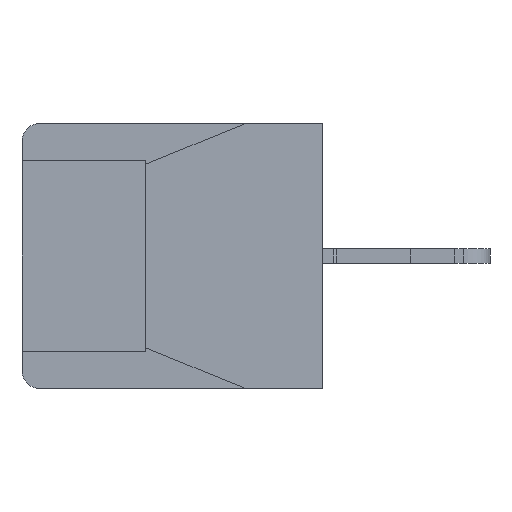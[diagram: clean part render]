
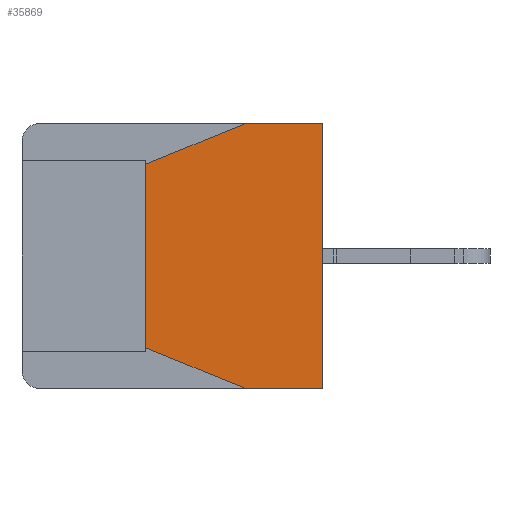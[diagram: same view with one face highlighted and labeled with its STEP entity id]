
A CAD part, left-side view. The second image highlights one B-rep face of the part: STEP entity #35869.
In plain terms, the highlighted planar face has unit normal (-1, 0, 0).
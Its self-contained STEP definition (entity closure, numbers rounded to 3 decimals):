
#2491=DIRECTION('',(0.,-1.,0.));
#2492=VECTOR('',#2491,4.35);
#2493=CARTESIAN_POINT('',(0.,4.35,-15.));
#2494=LINE('',#2493,#2492);
#2581=DIRECTION('',(0.,0.,1.));
#2582=VECTOR('',#2581,15.);
#2583=CARTESIAN_POINT('',(0.,0.,-15.));
#2584=LINE('',#2583,#2582);
#6838=DIRECTION('',(0.,0.926,0.378));
#6839=VECTOR('',#6838,6.102);
#6840=CARTESIAN_POINT('',(0.,4.35,-15.));
#6841=LINE('',#6840,#6839);
#6842=DIRECTION('',(0.,0.,1.));
#6843=VECTOR('',#6842,10.392);
#6844=CARTESIAN_POINT('',(0.,10.,-12.696));
#6845=LINE('',#6844,#6843);
#6846=DIRECTION('',(0.,-0.926,0.378));
#6847=VECTOR('',#6846,6.102);
#6848=CARTESIAN_POINT('',(0.,10.,-2.304));
#6849=LINE('',#6848,#6847);
#6850=DIRECTION('',(0.,-1.,0.));
#6851=VECTOR('',#6850,4.35);
#6852=CARTESIAN_POINT('',(0.,4.35,0.));
#6853=LINE('',#6852,#6851);
#20387=CARTESIAN_POINT('',(0.,0.,0.));
#20388=VERTEX_POINT('',#20387);
#20455=CARTESIAN_POINT('',(0.,10.,-12.696));
#20456=VERTEX_POINT('',#20455);
#20457=CARTESIAN_POINT('',(0.,10.,-2.304));
#20458=VERTEX_POINT('',#20457);
#20503=CARTESIAN_POINT('',(0.,4.35,0.));
#20504=VERTEX_POINT('',#20503);
#20505=CARTESIAN_POINT('',(0.,4.35,-15.));
#20506=VERTEX_POINT('',#20505);
#20507=CARTESIAN_POINT('',(0.,0.,-15.));
#20508=VERTEX_POINT('',#20507);
#35854=CARTESIAN_POINT('',(0.,5.,-7.5));
#35855=DIRECTION('',(1.,0.,0.));
#35856=DIRECTION('',(0.,0.,1.));
#35857=AXIS2_PLACEMENT_3D('',#35854,#35855,#35856);
#35858=PLANE('',#35857);
#35860=ORIENTED_EDGE('',*,*,#35859,.T.);
#35862=ORIENTED_EDGE('',*,*,#35861,.T.);
#35863=ORIENTED_EDGE('',*,*,#35847,.T.);
#35864=ORIENTED_EDGE('',*,*,#30014,.T.);
#35865=ORIENTED_EDGE('',*,*,#30219,.F.);
#35866=ORIENTED_EDGE('',*,*,#30146,.F.);
#35867=EDGE_LOOP('',(#35860,#35862,#35863,#35864,#35865,#35866));
#35868=FACE_OUTER_BOUND('',#35867,.F.);
#35869=ADVANCED_FACE('',(#35868),#35858,.F.);
#30014=EDGE_CURVE('',#20504,#20388,#6853,.T.);
#30146=EDGE_CURVE('',#20506,#20508,#2494,.T.);
#30219=EDGE_CURVE('',#20508,#20388,#2584,.T.);
#35847=EDGE_CURVE('',#20458,#20504,#6849,.T.);
#35859=EDGE_CURVE('',#20506,#20456,#6841,.T.);
#35861=EDGE_CURVE('',#20456,#20458,#6845,.T.);
